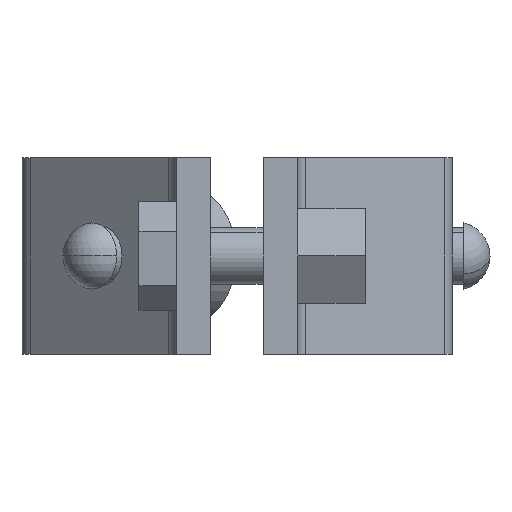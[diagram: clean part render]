
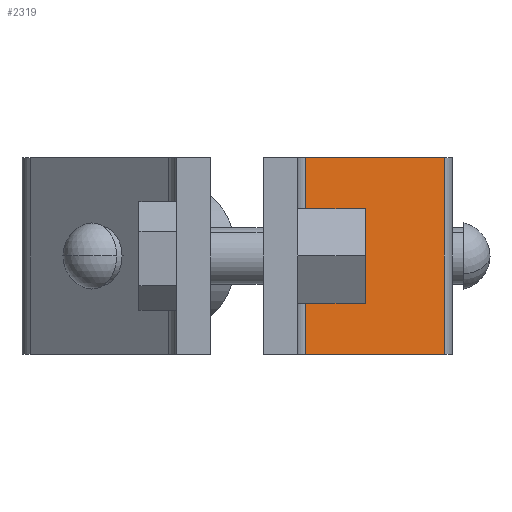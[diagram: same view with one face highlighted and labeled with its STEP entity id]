
A CAD part, left-side view. The second image highlights one B-rep face of the part: STEP entity #2319.
In plain terms, the highlighted planar face has unit normal (-0.751, -0.66, 0) as drawn and (-0.751, 0.66, 0) by its records, which use the part's own axes.
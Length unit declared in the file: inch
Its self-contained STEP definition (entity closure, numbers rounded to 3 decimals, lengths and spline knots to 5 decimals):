
#39 = EDGE_CURVE ( 'NONE', #680, #2493, #1627, .T. ) ;
#106 = CARTESIAN_POINT ( 'NONE',  ( 0.6695, 0.177, -1.024 ) ) ;
#302 = CARTESIAN_POINT ( 'NONE',  ( 0.6695, 0.177, 0. ) ) ;
#410 = VECTOR ( 'NONE', #2898, 39.37008 ) ;
#455 = CARTESIAN_POINT ( 'NONE',  ( 0.70684, 0.21953, 0. ) ) ;
#500 = LINE ( 'NONE', #2444, #2759 ) ;
#680 = VERTEX_POINT ( 'NONE', #1278 ) ;
#710 = EDGE_CURVE ( 'NONE', #1578, #2493, #1320, .T. ) ;
#805 = DIRECTION ( 'NONE',  ( -0.751, 0.66, 0. ) ) ;
#825 = ORIENTED_EDGE ( 'NONE', *, *, #710, .F. ) ;
#896 = DIRECTION ( 'NONE',  ( 0., 0., -1. ) ) ;
#999 = DIRECTION ( 'NONE',  ( -0.66, -0.751, 0. ) ) ;
#1032 = ORIENTED_EDGE ( 'NONE', *, *, #39, .T. ) ;
#1278 = CARTESIAN_POINT ( 'NONE',  ( 0.70684, 0.21953, -1.024 ) ) ;
#1320 = LINE ( 'NONE', #302, #3064 ) ;
#1325 = EDGE_CURVE ( 'NONE', #1578, #1760, #2105, .T. ) ;
#1342 = FACE_OUTER_BOUND ( 'NONE', #2008, .T. ) ;
#1539 = CARTESIAN_POINT ( 'NONE',  ( 1.34066, 0.94147, 0. ) ) ;
#1578 = VERTEX_POINT ( 'NONE', #1539 ) ;
#1627 = LINE ( 'NONE', #2389, #410 ) ;
#1760 = VERTEX_POINT ( 'NONE', #1865 ) ;
#1865 = CARTESIAN_POINT ( 'NONE',  ( 1.34066, 0.94147, -1.024 ) ) ;
#1891 = ORIENTED_EDGE ( 'NONE', *, *, #1325, .T. ) ;
#2008 = EDGE_LOOP ( 'NONE', ( #825, #1891, #3139, #1032 ) ) ;
#2105 = LINE ( 'NONE', #2836, #2607 ) ;
#2298 = DIRECTION ( 'NONE',  ( -0.66, -0.751, 0. ) ) ;
#2319 = ADVANCED_FACE ( 'NONE', ( #1342 ), #2782, .T. ) ;
#2351 = AXIS2_PLACEMENT_3D ( 'NONE', #106, #805, #3024 ) ;
#2389 = CARTESIAN_POINT ( 'NONE',  ( 0.70684, 0.21953, 0. ) ) ;
#2444 = CARTESIAN_POINT ( 'NONE',  ( 0.6695, 0.177, -1.024 ) ) ;
#2452 = EDGE_CURVE ( 'NONE', #1760, #680, #500, .T. ) ;
#2493 = VERTEX_POINT ( 'NONE', #455 ) ;
#2607 = VECTOR ( 'NONE', #896, 39.37008 ) ;
#2759 = VECTOR ( 'NONE', #999, 39.37008 ) ;
#2782 = PLANE ( 'NONE',  #2351 ) ;
#2836 = CARTESIAN_POINT ( 'NONE',  ( 1.34066, 0.94147, -1.024 ) ) ;
#2898 = DIRECTION ( 'NONE',  ( 0., 0., 1. ) ) ;
#3024 = DIRECTION ( 'NONE',  ( -0.66, -0.751, 0. ) ) ;
#3064 = VECTOR ( 'NONE', #2298, 39.37008 ) ;
#3139 = ORIENTED_EDGE ( 'NONE', *, *, #2452, .T. ) ;
